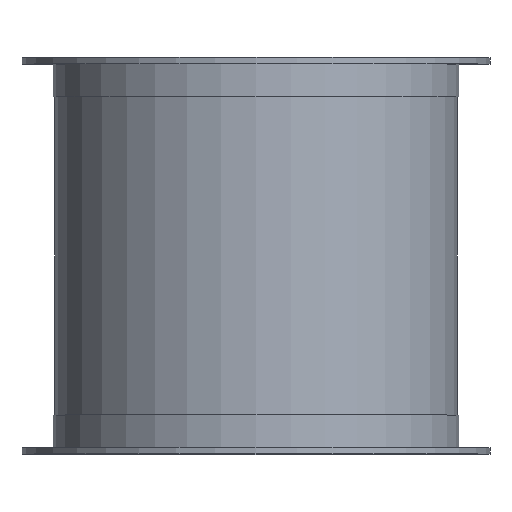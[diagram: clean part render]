
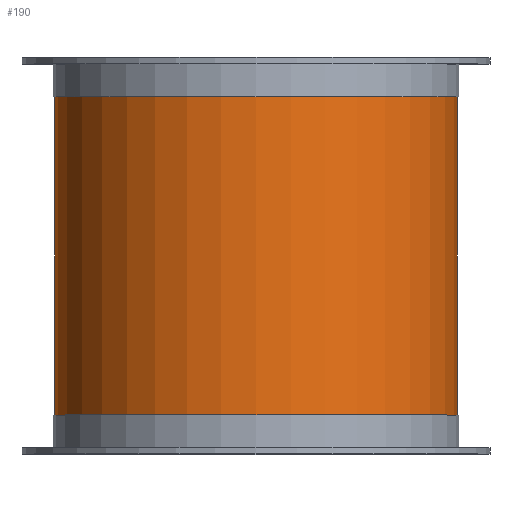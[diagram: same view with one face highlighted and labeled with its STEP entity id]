
A CAD part, top view. The second image highlights one B-rep face of the part: STEP entity #190.
In plain terms, the highlighted cylindrical face has radius 129 mm (diameter 258 mm), a partial arc.
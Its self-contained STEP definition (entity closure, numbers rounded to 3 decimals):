
#190=ADVANCED_FACE('',(#414),#415,.T.);
#414=FACE_OUTER_BOUND('',#629,.T.);
#415=CYLINDRICAL_SURFACE('',#630,129.0);
#629=EDGE_LOOP('',(#1137,#1138,#1139,#1140));
#630=AXIS2_PLACEMENT_3D('',#1141,#1142,#1143);
#1137=ORIENTED_EDGE('',*,*,#1145,.T.);
#1138=ORIENTED_EDGE('',*,*,#1302,.T.);
#1139=ORIENTED_EDGE('',*,*,#1147,.T.);
#1140=ORIENTED_EDGE('',*,*,#1341,.T.);
#1141=CARTESIAN_POINT('',(0.0,127.0,0.0));
#1142=DIRECTION('',(-0.0,1.0,0.0));
#1143=DIRECTION('',(1.0,0.0,0.0));
#1145=EDGE_CURVE('',#1345,#1346,#1347,.T.);
#1147=EDGE_CURVE('',#1350,#1348,#1351,.T.);
#1302=EDGE_CURVE('',#1346,#1350,#1598,.T.);
#1341=EDGE_CURVE('',#1348,#1345,#1637,.T.);
#1345=VERTEX_POINT('',#1641);
#1346=VERTEX_POINT('',#1642);
#1347=LINE('',#1643,#1644);
#1348=VERTEX_POINT('',#1645);
#1350=VERTEX_POINT('',#1647);
#1351=LINE('',#1648,#1649);
#1598=CIRCLE('',#1942,129.0);
#1637=CIRCLE('',#1981,129.0);
#1641=CARTESIAN_POINT('',(129.0,25.0,0.));
#1642=CARTESIAN_POINT('',(129.0,229.0,0.));
#1643=CARTESIAN_POINT('',(129.0,127.0,0.));
#1644=VECTOR('',#1984,1.0);
#1645=CARTESIAN_POINT('',(-129.0,25.0,0.));
#1647=CARTESIAN_POINT('',(-129.0,229.0,0.));
#1648=CARTESIAN_POINT('',(-129.0,127.0,0.));
#1649=VECTOR('',#1988,1.0);
#1942=AXIS2_PLACEMENT_3D('',#2245,#2246,#2247);
#1981=AXIS2_PLACEMENT_3D('',#2317,#2318,#2319);
#1984=DIRECTION('',(0.0,1.0,0.0));
#1988=DIRECTION('',(-0.0,-1.0,-0.0));
#2245=CARTESIAN_POINT('',(0.0,229.0,0.0));
#2246=DIRECTION('',(0.0,-1.0,0.));
#2247=DIRECTION('',(1.0,0.0,0.0));
#2317=CARTESIAN_POINT('',(0.0,25.0,0.0));
#2318=DIRECTION('',(-0.0,1.0,0.0));
#2319=DIRECTION('',(1.0,0.0,0.0));
